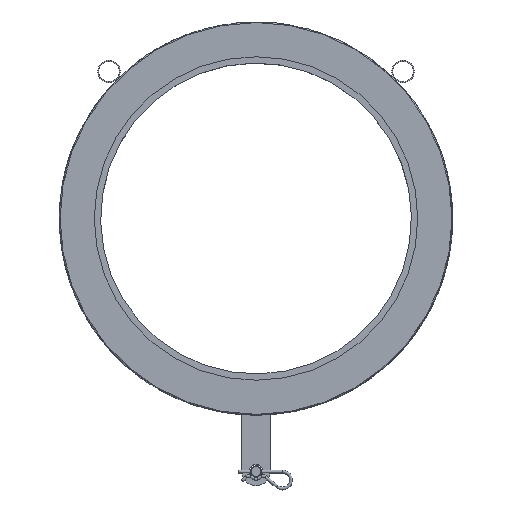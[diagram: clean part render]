
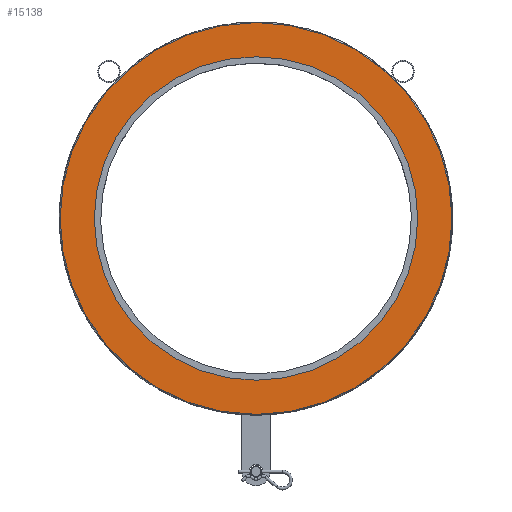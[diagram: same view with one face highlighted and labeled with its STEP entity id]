
A CAD part, top view. The second image highlights one B-rep face of the part: STEP entity #15138.
In plain terms, the highlighted planar face has unit normal (0, 0, 1).
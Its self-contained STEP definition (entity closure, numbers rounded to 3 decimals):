
#717=PLANE('',#16008);
#814=FACE_BOUND('',#2968,.T.);
#1218=CIRCLE('',#16004,229.5);
#1219=CIRCLE('',#16006,278.);
#2054=FACE_OUTER_BOUND('',#2967,.T.);
#2967=EDGE_LOOP('',(#13958));
#2968=EDGE_LOOP('',(#13959));
#7336=VERTEX_POINT('',#35493);
#7337=VERTEX_POINT('',#35497);
#9551=EDGE_CURVE('',#7336,#7336,#1218,.T.);
#9553=EDGE_CURVE('',#7337,#7337,#1219,.T.);
#13958=ORIENTED_EDGE('',*,*,#9553,.F.);
#13959=ORIENTED_EDGE('',*,*,#9551,.T.);
#15138=ADVANCED_FACE('',(#2054,#814),#717,.T.);
#16004=AXIS2_PLACEMENT_3D('',#35494,#18729,#18730);
#16006=AXIS2_PLACEMENT_3D('',#35498,#18734,#18735);
#16008=AXIS2_PLACEMENT_3D('',#35501,#18739,#18740);
#18729=DIRECTION('center_axis',(0.,0.,
-1.));
#18730=DIRECTION('ref_axis',(-1.,0.,0.));
#18734=DIRECTION('center_axis',(0.,0.,
-1.));
#18735=DIRECTION('ref_axis',(-1.,0.,0.));
#18739=DIRECTION('center_axis',(0.,0.,
1.));
#18740=DIRECTION('ref_axis',(-1.,0.,0.));
#35493=CARTESIAN_POINT('',(229.5,0.,112.));
#35494=CARTESIAN_POINT('Origin',(0.,0.,
112.));
#35497=CARTESIAN_POINT('',(278.,0.,112.));
#35498=CARTESIAN_POINT('Origin',(0.,0.,
112.));
#35501=CARTESIAN_POINT('Origin',(0.,0.,
112.));
